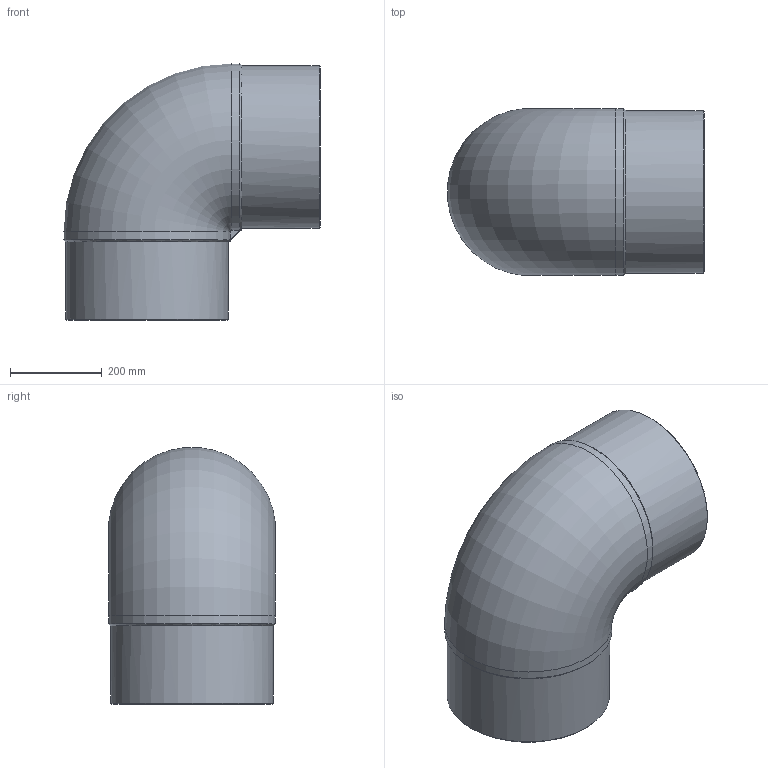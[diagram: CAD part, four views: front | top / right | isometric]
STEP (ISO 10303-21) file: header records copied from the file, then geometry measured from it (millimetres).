
FILE_DESCRIPTION(/* description */ ('Unknown'),/* implementation_level */ '2;1');
FILE_NAME(/* name */ 'G9P355B',/* time_stamp */ '2021-11-29T12:41:41+01:00',/* author */ ('Unknown'),/* organization */ ('Unknown'),/* preprocessor_version */ 'ST-DEVELOPER v16.7',/* originating_system */ 'Solid Edge',/* authorisation */ 'Unknown');
FILE_SCHEMA (('AUTOMOTIVE_DESIGN {1 0 10303 214 3 1 1}'));
Length unit declared in the file: millimetre
Products named in the file (1): G9P355B
Bounding box: 559.8 x 363.69 x 559.8 mm (x, y, z)
Volume: 17170638.8 mm3; surface area: 1478285.2 mm2
Topology: 1 solids, 1 shells, 25 faces, 65 edges, 42 vertices
Faces by surface type: cylinder 8, bspline 6, plane 5, cone 4, torus 2
Full cylindrical faces by diameter (mm): 312.8 x2, 355 x2
Entity records: 832 total; most frequent: CARTESIAN_POINT 295, ORIENTED_EDGE 106, DIRECTION 90, EDGE_CURVE 53, AXIS2_PLACEMENT_3D 41, VERTEX_POINT 38, EDGE_LOOP 35, FACE_BOUND 35
